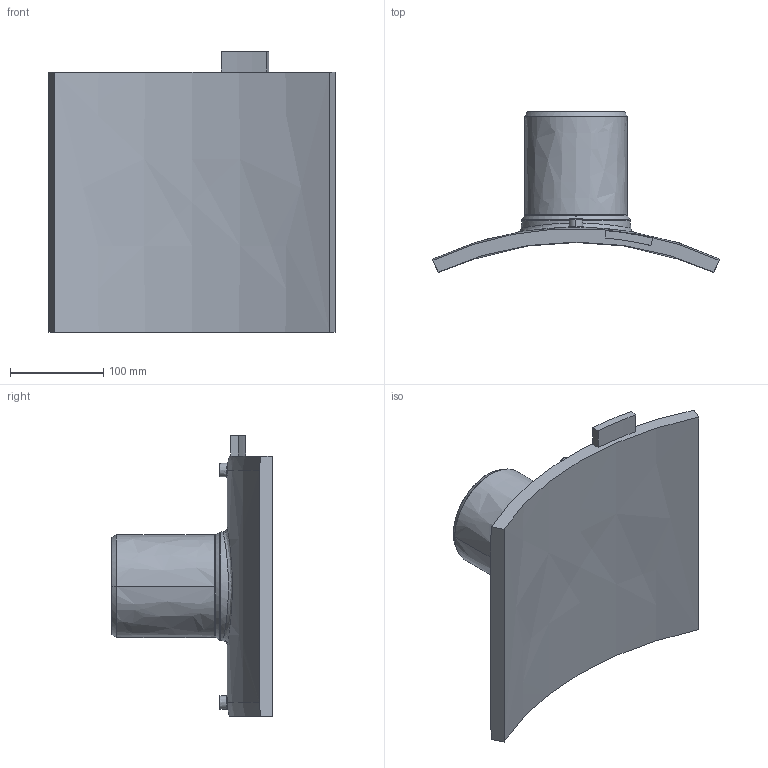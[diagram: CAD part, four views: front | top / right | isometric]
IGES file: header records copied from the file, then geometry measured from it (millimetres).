
Start section:  PTC IGES file: sa-uni_d710_110_01.igs
Global section: file name: sa-uni_d710_110_01.igs; native system: Pro/ENGINEER by Parametric Technology Corporation; preprocessor: 2011490; author: MikulicP; organization: Unknown; date: 20170206.110249; units: millimetre
Bounding box: 307.5 x 172.07 x 301 mm (x, y, z)
Surface area: 279635.2 mm2 (no closed solid volume)
Topology: 0 solids, 0 shells, 200 faces, 984 edges, 984 vertices
Faces by surface type: bspline 200
